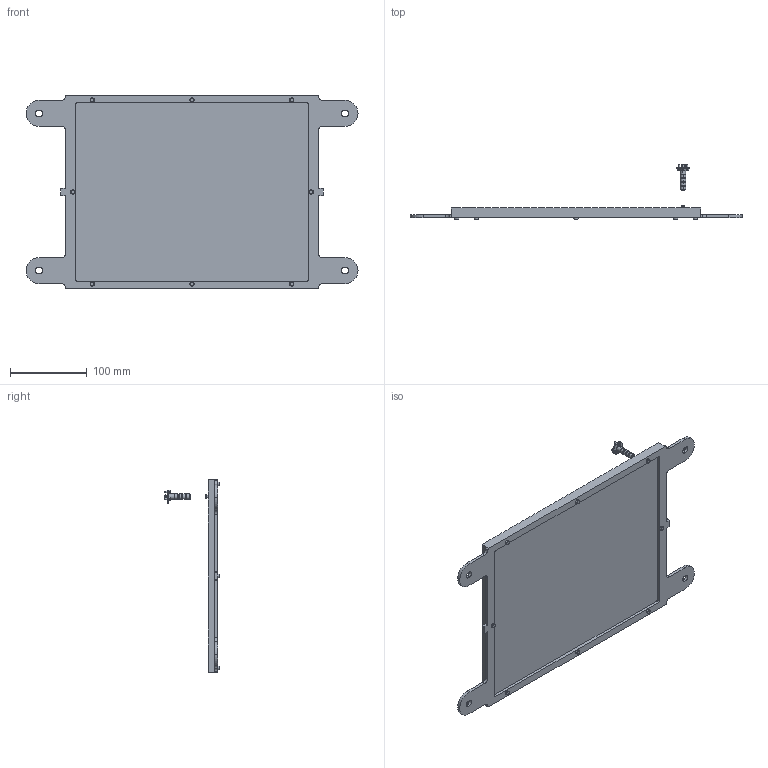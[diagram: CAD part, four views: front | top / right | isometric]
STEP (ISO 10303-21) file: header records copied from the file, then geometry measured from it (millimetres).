
FILE_DESCRIPTION (( 'STEP AP214' ), '1' );
FILE_NAME ('Asyril_CALIBRATION PLATE - 380.STEP', '2019-04-02T13:53:56', ( 'Standard' ), ( '' ), 'SwSTEP 2.0', 'SolidWorks 2017', '' );
FILE_SCHEMA (( 'AUTOMOTIVE_DESIGN' ));
Length unit declared in the file: millimetre
Products named in the file (5): Asyril_ROBOT CALIBRATION TOOL KIT - 380-530_000.102.500(option); Asyril_ROBOT CALIBRATION PIN - 380-530_000.102.255_(option); Asyril_ROBOT CALIBRATION TOOL_000.102.067_(option); Asyril_CALIBRATION PLATE - 380_000.102.581_(option); Asyril_CALIBRATION PLATE - 380
Assembly tree (4 placements, depth 3):
  Asyril_CALIBRATION PLATE - 380
    Asyril_CALIBRATION PLATE - 380_000.102.581_(option)
    Asyril_ROBOT CALIBRATION TOOL KIT - 380-530_000.102.500(option)
      Asyril_ROBOT CALIBRATION TOOL_000.102.067_(option)
      Asyril_ROBOT CALIBRATION PIN - 380-530_000.102.255_(option)
Bounding box: 433 x 72 x 253 mm (x, y, z)
Volume: 784830.4 mm3; surface area: 203228.6 mm2
Topology: 6 solids, 14 shells, 1468 faces, 3517 edges, 2136 vertices
Faces by surface type: plane 1172, cylinder 141, cone 105, torus 48, sphere 2
Entity records: 49866 total; most frequent: CARTESIAN_POINT 8781, ORIENTED_EDGE 6972, DIRECTION 6538, EDGE_CURVE 3486, LINE 2670, VECTOR 2670, VERTEX_POINT 2131, AXIS2_PLACEMENT_3D 1934
